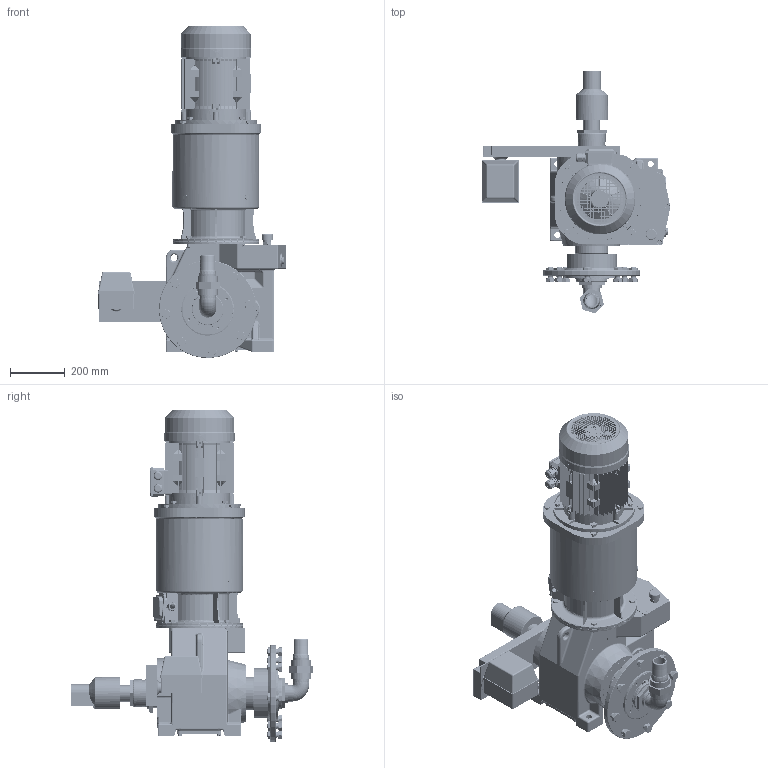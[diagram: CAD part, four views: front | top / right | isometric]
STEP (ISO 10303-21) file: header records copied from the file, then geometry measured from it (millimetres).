
FILE_DESCRIPTION(/* description */ (''),/* implementation_level */ '2;1');
FILE_NAME(/* name */ 'K:\NEMANJA\CABLE REEL\CABLE REEL DA\0700-6\07006006 DA-CRHS\STEP\75892.stp',/* time_stamp */ '2017-03-16T10:57:13+01:00',/* author */ ('zeldjo01'),/* organization */ ('Hillmar Industries Ltd.'),/* preprocessor_version */ 'ST-DEVELOPER v16.1',/* originating_system */ 'Autodesk Inventor 2016',/* authorisation */ '');
FILE_SCHEMA (('AUTOMOTIVE_DESIGN { 1 0 10303 214 3 1 1 }'));
Length unit declared in the file: millimetre
Products named in the file (1): 75892
Bounding box: 689.06 x 884.83 x 1211.31 mm (x, y, z)
Volume: 39932754.8 mm3; surface area: 5535307.4 mm2
Topology: 7 solids, 7 shells, 6950 faces, 18203 edges, 11500 vertices
Faces by surface type: plane 3748, cylinder 1503, bspline 790, cone 500, torus 296, sphere 113
Full cylindrical faces by diameter (mm): 3 x4, 6.6 x4, 7.323 x8, 8 x9, 8.5 x1, 9 x8, 10 x15, 10.106 x18, 11.053 x13, 11.113 x2, 11.4 x8, 12 x18, 13 x9, 13.5 x4, 14 x14, 15 x8, 16 x4, 17.2 x13, 17.475 x1, 17.75 x1, 18 x6, 18.647 x8, 18.653 x1, 20 x12, 22 x12, 25 x3, 26 x1, 27.7 x8, 28 x5, 30 x6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
Entity records: 237375 total; most frequent: CARTESIAN_POINT 68526, ORIENTED_EDGE 34614, DIRECTION 30925, EDGE_CURVE 17300, VERTEX_POINT 11245, AXIS2_PLACEMENT_3D 10675, LINE 9575, VECTOR 9575
